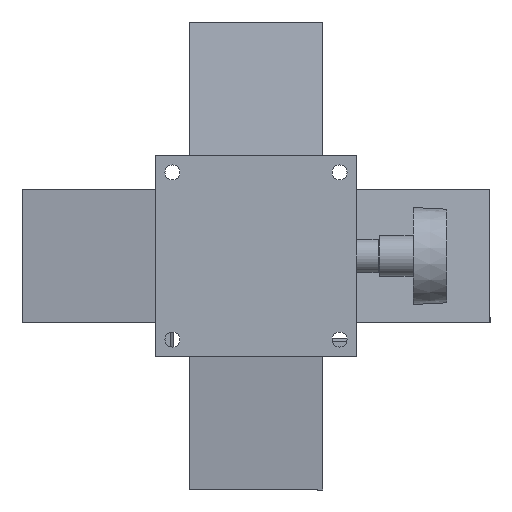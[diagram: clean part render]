
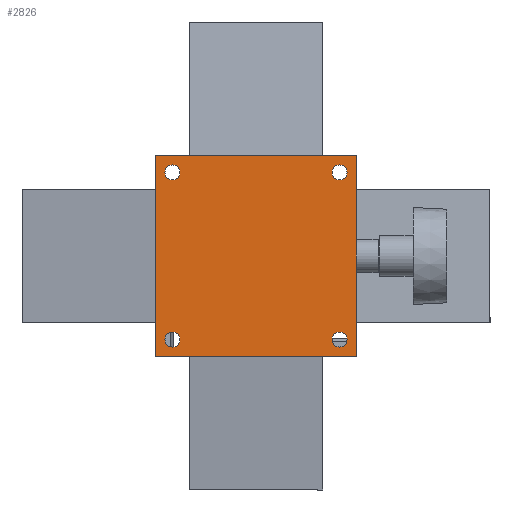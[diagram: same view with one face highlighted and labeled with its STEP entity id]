
A CAD part, front view. The second image highlights one B-rep face of the part: STEP entity #2826.
In plain terms, the highlighted planar face has unit normal (0, -1, 0).
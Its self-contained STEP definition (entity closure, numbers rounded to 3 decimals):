
#2497 = EDGE_CURVE ( 'NONE', #2498, #2499, #9805, .T. ) ;
#2498 = VERTEX_POINT ( 'NONE', #9800 ) ;
#2499 = VERTEX_POINT ( 'NONE', #9799 ) ;
#2726 = EDGE_CURVE ( 'NONE', #2727, #2728, #10690, .T. ) ;
#2727 = VERTEX_POINT ( 'NONE', #10640 ) ;
#2728 = VERTEX_POINT ( 'NONE', #10638 ) ;
#2786 = EDGE_CURVE ( 'NONE', #2787, #2788, #10734, .T. ) ;
#2787 = VERTEX_POINT ( 'NONE', #10756 ) ;
#2788 = VERTEX_POINT ( 'NONE', #10755 ) ;
#2826 = ADVANCED_FACE ( 'NONE', ( #10916, #10858, #10857, #10856, #10855 ), #10878, .F. ) ;
#2827 = EDGE_LOOP ( 'NONE', ( #2828, #2830 ) ) ;
#2828 = ORIENTED_EDGE ( 'NONE', *, *, #2829, .T. ) ;
#2829 = EDGE_CURVE ( 'NONE', #2499, #2498, #10871, .T. ) ;
#2830 = ORIENTED_EDGE ( 'NONE', *, *, #2497, .T. ) ;
#2831 = EDGE_LOOP ( 'NONE', ( #2832, #3095 ) ) ;
#2832 = ORIENTED_EDGE ( 'NONE', *, *, #3094, .T. ) ;
#2845 = VERTEX_POINT ( 'NONE', #10860 ) ;
#2859 = VERTEX_POINT ( 'NONE', #10827 ) ;
#2861 = VERTEX_POINT ( 'NONE', #10826 ) ;
#2862 = EDGE_CURVE ( 'NONE', #2861, #2845, #10825, .T. ) ;
#2951 = EDGE_CURVE ( 'NONE', #2845, #2962, #11148, .T. ) ;
#2953 = EDGE_CURVE ( 'NONE', #2859, #2861, #11144, .T. ) ;
#2961 = EDGE_CURVE ( 'NONE', #2962, #2859, #11202, .T. ) ;
#2962 = VERTEX_POINT ( 'NONE', #11198 ) ;
#3082 = ORIENTED_EDGE ( 'NONE', *, *, #2951, .T. ) ;
#3083 = ORIENTED_EDGE ( 'NONE', *, *, #2961, .T. ) ;
#3084 = ORIENTED_EDGE ( 'NONE', *, *, #2953, .T. ) ;
#3094 = EDGE_CURVE ( 'NONE', #3105, #3104, #11221, .T. ) ;
#3095 = ORIENTED_EDGE ( 'NONE', *, *, #3103, .T. ) ;
#3096 = EDGE_LOOP ( 'NONE', ( #3097, #3099 ) ) ;
#3097 = ORIENTED_EDGE ( 'NONE', *, *, #3098, .T. ) ;
#3098 = EDGE_CURVE ( 'NONE', #2788, #2787, #11216, .T. ) ;
#3099 = ORIENTED_EDGE ( 'NONE', *, *, #2786, .T. ) ;
#3103 = EDGE_CURVE ( 'NONE', #3104, #3105, #7645, .T. ) ;
#3104 = VERTEX_POINT ( 'NONE', #7650 ) ;
#3105 = VERTEX_POINT ( 'NONE', #7643 ) ;
#3107 = EDGE_LOOP ( 'NONE', ( #3108, #3110 ) ) ;
#3108 = ORIENTED_EDGE ( 'NONE', *, *, #3109, .T. ) ;
#3109 = EDGE_CURVE ( 'NONE', #2728, #2727, #7660, .T. ) ;
#3110 = ORIENTED_EDGE ( 'NONE', *, *, #2726, .T. ) ;
#3111 = EDGE_LOOP ( 'NONE', ( #3112, #3082, #3083, #3084 ) ) ;
#3112 = ORIENTED_EDGE ( 'NONE', *, *, #2862, .T. ) ;
#7638 = AXIS2_PLACEMENT_3D ( 'NONE', #7648, #7641, #7639 ) ;
#7639 = DIRECTION ( 'NONE',  ( 0., 0., 1. ) ) ;
#7640 = DIRECTION ( 'NONE',  ( 0., 1., 0. ) ) ;
#7641 = DIRECTION ( 'NONE',  ( 0., 1., 0. ) ) ;
#7643 = CARTESIAN_POINT ( 'NONE',  ( 25., 0., -22.75 ) ) ;
#7644 = DIRECTION ( 'NONE',  ( 0., 0., 1. ) ) ;
#7645 = CIRCLE ( 'NONE', #7646, 2.25 ) ;
#7646 = AXIS2_PLACEMENT_3D ( 'NONE', #7659, #7640, #7644 ) ;
#7648 = CARTESIAN_POINT ( 'NONE',  ( -25., 0., 25. ) ) ;
#7650 = CARTESIAN_POINT ( 'NONE',  ( 25., 0., -27.25 ) ) ;
#7659 = CARTESIAN_POINT ( 'NONE',  ( 25., 0., -25. ) ) ;
#7660 = CIRCLE ( 'NONE', #7638, 2.25 ) ;
#9799 = CARTESIAN_POINT ( 'NONE',  ( 25., 0., 27.25 ) ) ;
#9800 = CARTESIAN_POINT ( 'NONE',  ( 25., 0., 22.75 ) ) ;
#9801 = DIRECTION ( 'NONE',  ( 0., 0., 1. ) ) ;
#9802 = DIRECTION ( 'NONE',  ( 0., 1., 0. ) ) ;
#9803 = CARTESIAN_POINT ( 'NONE',  ( 25., 0., 25. ) ) ;
#9804 = AXIS2_PLACEMENT_3D ( 'NONE', #9803, #9802, #9801 ) ;
#9805 = CIRCLE ( 'NONE', #9804, 2.25 ) ;
#10636 = AXIS2_PLACEMENT_3D ( 'NONE', #10639, #10641, #10642 ) ;
#10638 = CARTESIAN_POINT ( 'NONE',  ( -25., 0., 27.25 ) ) ;
#10639 = CARTESIAN_POINT ( 'NONE',  ( -25., 0., 25. ) ) ;
#10640 = CARTESIAN_POINT ( 'NONE',  ( -25., 0., 22.75 ) ) ;
#10641 = DIRECTION ( 'NONE',  ( 0., 1., 0. ) ) ;
#10642 = DIRECTION ( 'NONE',  ( 0., 0., 1. ) ) ;
#10690 = CIRCLE ( 'NONE', #10636, 2.25 ) ;
#10732 = CARTESIAN_POINT ( 'NONE',  ( -25., 0., -25. ) ) ;
#10733 = AXIS2_PLACEMENT_3D ( 'NONE', #10732, #10758, #10757 ) ;
#10734 = CIRCLE ( 'NONE', #10733, 2.25 ) ;
#10755 = CARTESIAN_POINT ( 'NONE',  ( -25., 0., -22.75 ) ) ;
#10756 = CARTESIAN_POINT ( 'NONE',  ( -25., 0., -27.25 ) ) ;
#10757 = DIRECTION ( 'NONE',  ( 0., 0., 1. ) ) ;
#10758 = DIRECTION ( 'NONE',  ( 0., 1., 0. ) ) ;
#10822 = DIRECTION ( 'NONE',  ( 1., 0., 0. ) ) ;
#10823 = VECTOR ( 'NONE', #10822, 1000. ) ;
#10824 = CARTESIAN_POINT ( 'NONE',  ( 30., 0., -30. ) ) ;
#10825 = LINE ( 'NONE', #10824, #10823 ) ;
#10826 = CARTESIAN_POINT ( 'NONE',  ( -30., 0., -30. ) ) ;
#10827 = CARTESIAN_POINT ( 'NONE',  ( -30., 0., 30. ) ) ;
#10855 = FACE_OUTER_BOUND ( 'NONE', #3111, .T. ) ;
#10856 = FACE_BOUND ( 'NONE', #3107, .T. ) ;
#10857 = FACE_BOUND ( 'NONE', #3096, .T. ) ;
#10858 = FACE_BOUND ( 'NONE', #2831, .T. ) ;
#10860 = CARTESIAN_POINT ( 'NONE',  ( 30., 0., -30. ) ) ;
#10868 = DIRECTION ( 'NONE',  ( 0., 0., 1. ) ) ;
#10869 = DIRECTION ( 'NONE',  ( 0., 1., 0. ) ) ;
#10870 = AXIS2_PLACEMENT_3D ( 'NONE', #10917, #10869, #10868 ) ;
#10871 = CIRCLE ( 'NONE', #10870, 2.25 ) ;
#10874 = DIRECTION ( 'NONE',  ( 0., 0., 1. ) ) ;
#10875 = DIRECTION ( 'NONE',  ( 0., 1., 0. ) ) ;
#10876 = CARTESIAN_POINT ( 'NONE',  ( 30., 0., -30. ) ) ;
#10877 = AXIS2_PLACEMENT_3D ( 'NONE', #10876, #10875, #10874 ) ;
#10878 = PLANE ( 'NONE',  #10877 ) ;
#10916 = FACE_BOUND ( 'NONE', #2827, .T. ) ;
#10917 = CARTESIAN_POINT ( 'NONE',  ( 25., 0., 25. ) ) ;
#11141 = DIRECTION ( 'NONE',  ( 0., 0., -1. ) ) ;
#11142 = VECTOR ( 'NONE', #11141, 1000. ) ;
#11143 = CARTESIAN_POINT ( 'NONE',  ( -30., 0., -30. ) ) ;
#11144 = LINE ( 'NONE', #11143, #11142 ) ;
#11145 = DIRECTION ( 'NONE',  ( 0., 0., 1. ) ) ;
#11146 = VECTOR ( 'NONE', #11145, 1000. ) ;
#11147 = CARTESIAN_POINT ( 'NONE',  ( 30., 0., -30. ) ) ;
#11148 = LINE ( 'NONE', #11147, #11146 ) ;
#11198 = CARTESIAN_POINT ( 'NONE',  ( 30., 0., 30. ) ) ;
#11199 = DIRECTION ( 'NONE',  ( -1., 0., 0. ) ) ;
#11200 = VECTOR ( 'NONE', #11199, 1000. ) ;
#11201 = CARTESIAN_POINT ( 'NONE',  ( 30., 0., 30. ) ) ;
#11202 = LINE ( 'NONE', #11201, #11200 ) ;
#11212 = DIRECTION ( 'NONE',  ( 0., 0., 1. ) ) ;
#11213 = DIRECTION ( 'NONE',  ( 0., 1., 0. ) ) ;
#11214 = CARTESIAN_POINT ( 'NONE',  ( -25., 0., -25. ) ) ;
#11215 = AXIS2_PLACEMENT_3D ( 'NONE', #11214, #11213, #11212 ) ;
#11216 = CIRCLE ( 'NONE', #11215, 2.25 ) ;
#11217 = DIRECTION ( 'NONE',  ( 0., 0., 1. ) ) ;
#11218 = DIRECTION ( 'NONE',  ( 0., 1., 0. ) ) ;
#11219 = CARTESIAN_POINT ( 'NONE',  ( 25., 0., -25. ) ) ;
#11220 = AXIS2_PLACEMENT_3D ( 'NONE', #11219, #11218, #11217 ) ;
#11221 = CIRCLE ( 'NONE', #11220, 2.25 ) ;
